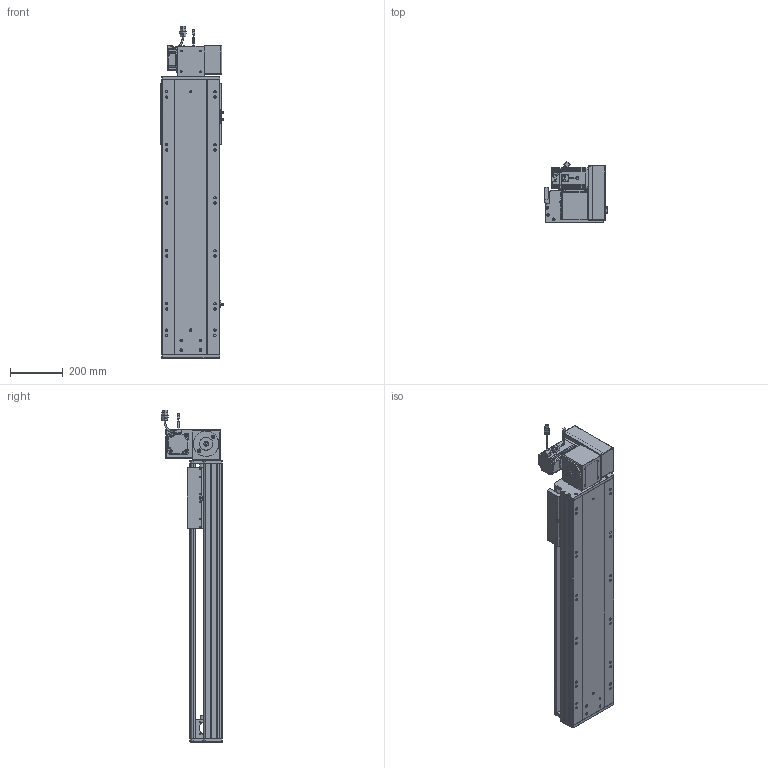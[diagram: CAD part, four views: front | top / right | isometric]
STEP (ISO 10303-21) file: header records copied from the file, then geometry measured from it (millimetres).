
FILE_DESCRIPTION (( 'STEP AP203' ), '1' );
FILE_NAME ('RY220-T-300-UR.SLDASM_700.step', '2022-07-25T08:42:57', ( '' ), ( '' ), 'SwSTEP 2.0', 'SolidWorks 2016', '' );
FILE_SCHEMA (( 'CONFIG_CONTROL_DESIGN' ));
Length unit declared in the file: millimetre
Products named in the file (14): RY220-俋离672覜茼んえ; RY220-T-湍謫欶(鍼踢); 110A-T-肮祭謫釱傷裔; RY220翋肮祭謫釱; 怢湛750W_ECMA-CX0807ES; RY220翋肮祭謫裔啣; 滅袉蝶18-15; RY220圉猾敕々湍臏賑輸; RY220-T-300-奻裔啣_700; RY220-T-蛌殏萇儂假蚾啣(750W); 覜茼ん672; RY220-T菁釱-300_700; RY220-同步轮副支撑座6304×2; RY220-T-300-UR.SLDASM_700
Assembly tree (18 placements, depth 2):
  RY220-T-300-UR.SLDASM_700
    RY220-T菁釱-300_700
    RY220翋肮祭謫釱
    覜茼ん672  x3
    RY220圉猾敕々湍臏賑輸
    RY220-T-300-奻裔啣_700
    RY220-俋离672覜茼んえ
    滅袉蝶18-15  x3
    RY220翋肮祭謫裔啣  x2
    110A-T-肮祭謫釱傷裔
    怢湛750W_ECMA-CX0807ES
    RY220-T-湍謫欶(鍼踢)
    RY220-T-蛌殏萇儂假蚾啣(750W)
    RY220-同步轮副支撑座6304×2
Bounding box: 238.7 x 231.74 x 1253.27 mm (x, y, z)
Volume: 10317102.8 mm3; surface area: 2947919.5 mm2
Topology: 19 solids, 19 shells, 2570 faces, 7087 edges, 4508 vertices
Faces by surface type: cylinder 1190, plane 1069, cone 229, bspline 56, sphere 16, torus 10
Entity records: 85459 total; most frequent: CARTESIAN_POINT 24437, ORIENTED_EDGE 12698, DIRECTION 11944, EDGE_CURVE 6349, AXIS2_PLACEMENT_3D 4204, VERTEX_POINT 4132, VECTOR 3536, LINE 3536
